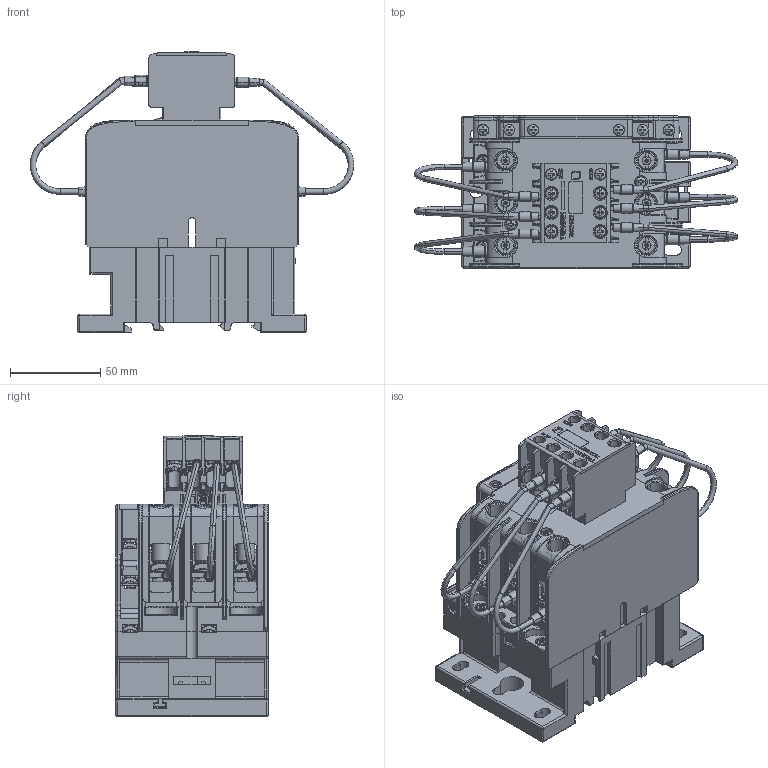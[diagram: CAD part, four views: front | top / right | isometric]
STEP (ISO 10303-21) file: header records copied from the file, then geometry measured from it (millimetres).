
FILE_DESCRIPTION((''),'2;1');
FILE_NAME('2TZD_400_1067_SW0002','2022-04-11T',('wangchen1'),(''),'PRO/ENGINEER BY PARAMETRIC TECHNOLOGY CORPORATION, 2017170','PRO/ENGINEER BY PARAMETRIC TECHNOLOGY CORPORATION, 2017170','');
FILE_SCHEMA(('CONFIG_CONTROL_DESIGN'));
Products named in the file (1): 2TZD_400_1067_SW0002
Bounding box: 179.22 x 84.3 x 155.4 mm (x, y, z)
Surface area: 314473.5 mm2 (no closed solid volume)
Topology: 0 solids, 257 shells, 4923 faces, 21797 edges, 16499 vertices
Faces by surface type: plane 3201, cylinder 1229, cone 190, bspline 151, sphere 81, torus 68, extrusion 3
Entity records: 254052 total; most frequent: CARTESIAN_POINT 66606, DIRECTION 33149, ORIENTED_EDGE 32771, EDGE_CURVE 21797, VERTEX_POINT 16499, VECTOR 16029, LINE 16026, AXIS2_PLACEMENT_3D 8560
